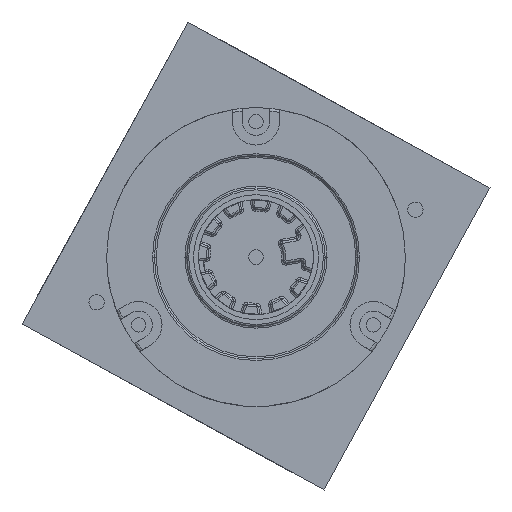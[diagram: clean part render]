
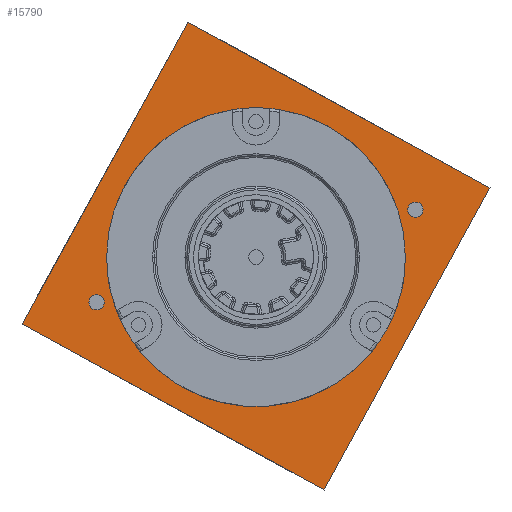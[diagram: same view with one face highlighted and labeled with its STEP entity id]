
A CAD part, left-side view. The second image highlights one B-rep face of the part: STEP entity #15790.
In plain terms, the highlighted planar face has unit normal (-1, 0, 0) as drawn and (0, -1, 0) by its records, which use the part's own axes.
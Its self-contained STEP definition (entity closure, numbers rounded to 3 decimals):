
#12985=DIRECTION('',(0.,0.,1.));
#12986=VECTOR('',#12985,75.);
#12987=CARTESIAN_POINT('',(-37.5,0.,-37.5));
#12988=LINE('',#12987,#12986);
#12989=DIRECTION('',(1.,0.,0.));
#12990=VECTOR('',#12989,75.);
#12991=CARTESIAN_POINT('',(-37.5,0.,37.5));
#12992=LINE('',#12991,#12990);
#12993=DIRECTION('',(0.,0.,-1.));
#12994=VECTOR('',#12993,75.);
#12995=CARTESIAN_POINT('',(37.5,0.,37.5));
#12996=LINE('',#12995,#12994);
#12997=DIRECTION('',(-1.,0.,0.));
#12998=VECTOR('',#12997,75.);
#12999=CARTESIAN_POINT('',(37.5,0.,-37.5));
#13000=LINE('',#12999,#12998);
#13001=CARTESIAN_POINT('',(0.,0.,0.));
#13002=DIRECTION('',(0.,-1.,0.));
#13003=DIRECTION('',(-1.,0.,0.));
#13004=AXIS2_PLACEMENT_3D('',#13001,#13002,#13003);
#13006=CARTESIAN_POINT('',(0.,0.,0.));
#13007=DIRECTION('',(0.,-1.,0.));
#13008=DIRECTION('',(1.,0.,0.));
#13009=AXIS2_PLACEMENT_3D('',#13006,#13007,#13008);
#13011=CARTESIAN_POINT('',(-25.55,0.,-25.55));
#13012=DIRECTION('',(0.,-1.,0.));
#13013=DIRECTION('',(0.,0.,1.));
#13014=AXIS2_PLACEMENT_3D('',#13011,#13012,#13013);
#13016=CARTESIAN_POINT('',(-25.55,0.,-25.55));
#13017=DIRECTION('',(0.,-1.,0.));
#13018=DIRECTION('',(0.,0.,-1.));
#13019=AXIS2_PLACEMENT_3D('',#13016,#13017,#13018);
#13021=CARTESIAN_POINT('',(25.55,0.,25.55));
#13022=DIRECTION('',(0.,-1.,0.));
#13023=DIRECTION('',(0.,0.,-1.));
#13024=AXIS2_PLACEMENT_3D('',#13021,#13022,#13023);
#13026=CARTESIAN_POINT('',(25.55,0.,25.55));
#13027=DIRECTION('',(0.,-1.,0.));
#13028=DIRECTION('',(0.,0.,1.));
#13029=AXIS2_PLACEMENT_3D('',#13026,#13027,#13028);
#15339=CARTESIAN_POINT('',(-37.5,0.,-37.5));
#15340=CARTESIAN_POINT('',(-37.5,0.,37.5));
#15341=VERTEX_POINT('',#15339);
#15342=VERTEX_POINT('',#15340);
#15343=CARTESIAN_POINT('',(37.5,0.,37.5));
#15344=VERTEX_POINT('',#15343);
#15345=CARTESIAN_POINT('',(37.5,0.,-37.5));
#15346=VERTEX_POINT('',#15345);
#15399=CARTESIAN_POINT('',(-29.5,0.,0.));
#15400=CARTESIAN_POINT('',(29.5,0.,0.));
#15401=VERTEX_POINT('',#15399);
#15402=VERTEX_POINT('',#15400);
#15415=CARTESIAN_POINT('',(-25.55,0.,-23.9));
#15416=CARTESIAN_POINT('',(-25.55,0.,-27.2));
#15417=VERTEX_POINT('',#15415);
#15418=VERTEX_POINT('',#15416);
#15423=CARTESIAN_POINT('',(25.55,0.,23.9));
#15424=CARTESIAN_POINT('',(25.55,0.,27.2));
#15425=VERTEX_POINT('',#15423);
#15426=VERTEX_POINT('',#15424);
#15757=CARTESIAN_POINT('',(0.,0.,0.));
#15758=DIRECTION('',(0.,1.,0.));
#15759=DIRECTION('',(1.,0.,0.));
#15760=AXIS2_PLACEMENT_3D('',#15757,#15758,#15759);
#15761=PLANE('',#15760);
#15763=ORIENTED_EDGE('',*,*,#15762,.T.);
#15765=ORIENTED_EDGE('',*,*,#15764,.T.);
#15767=ORIENTED_EDGE('',*,*,#15766,.T.);
#15769=ORIENTED_EDGE('',*,*,#15768,.T.);
#15770=EDGE_LOOP('',(#15763,#15765,#15767,#15769));
#15771=FACE_OUTER_BOUND('',#15770,.F.);
#15773=ORIENTED_EDGE('',*,*,#15772,.T.);
#15775=ORIENTED_EDGE('',*,*,#15774,.T.);
#15776=EDGE_LOOP('',(#15773,#15775));
#15777=FACE_BOUND('',#15776,.F.);
#15779=ORIENTED_EDGE('',*,*,#15778,.T.);
#15781=ORIENTED_EDGE('',*,*,#15780,.T.);
#15782=EDGE_LOOP('',(#15779,#15781));
#15783=FACE_BOUND('',#15782,.F.);
#15785=ORIENTED_EDGE('',*,*,#15784,.T.);
#15787=ORIENTED_EDGE('',*,*,#15786,.T.);
#15788=EDGE_LOOP('',(#15785,#15787));
#15789=FACE_BOUND('',#15788,.F.);
#15790=ADVANCED_FACE('',(#15771,#15777,#15783,#15789),#15761,.F.);
#13005=CIRCLE('',#13004,29.5);
#13010=CIRCLE('',#13009,29.5);
#13015=CIRCLE('',#13014,1.65);
#13020=CIRCLE('',#13019,1.65);
#13025=CIRCLE('',#13024,1.65);
#13030=CIRCLE('',#13029,1.65);
#15762=EDGE_CURVE('',#15341,#15342,#12988,.T.);
#15764=EDGE_CURVE('',#15342,#15344,#12992,.T.);
#15766=EDGE_CURVE('',#15344,#15346,#12996,.T.);
#15768=EDGE_CURVE('',#15346,#15341,#13000,.T.);
#15772=EDGE_CURVE('',#15401,#15402,#13005,.T.);
#15774=EDGE_CURVE('',#15402,#15401,#13010,.T.);
#15778=EDGE_CURVE('',#15417,#15418,#13015,.T.);
#15780=EDGE_CURVE('',#15418,#15417,#13020,.T.);
#15784=EDGE_CURVE('',#15425,#15426,#13025,.T.);
#15786=EDGE_CURVE('',#15426,#15425,#13030,.T.);
